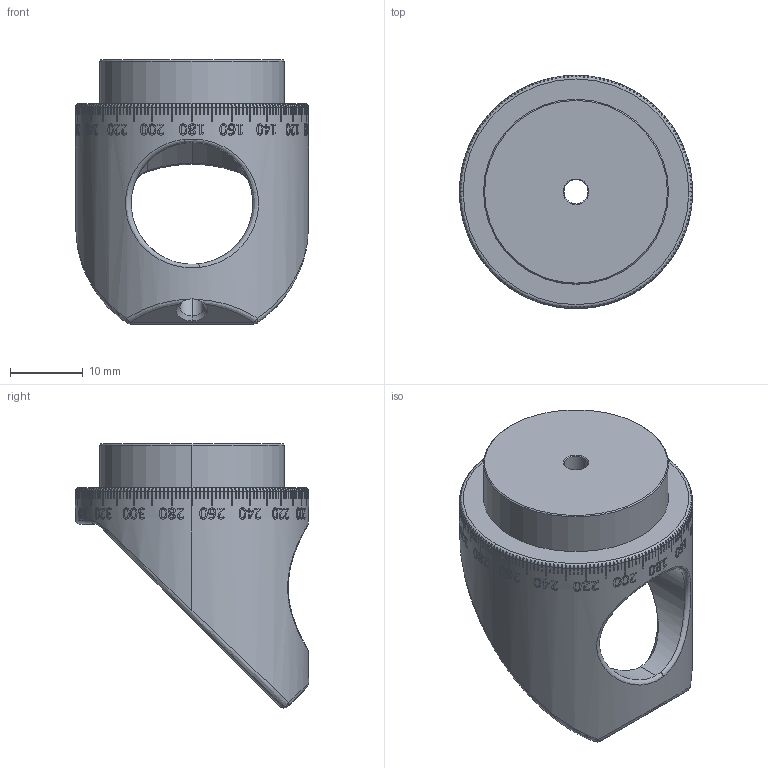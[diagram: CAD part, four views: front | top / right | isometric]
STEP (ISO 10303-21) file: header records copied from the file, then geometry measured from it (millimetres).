
FILE_DESCRIPTION (( 'STEP AP214' ), '1' );
FILE_NAME ('45僅蛌諉.STEP', '2026-08-10T07:43:05', ( '' ), ( '' ), 'SwSTEP 2.0', 'SolidWorks 2024', '' );
FILE_SCHEMA (( 'AUTOMOTIVE_DESIGN' ));
Length unit declared in the file: millimetre
Products named in the file (1): 45度转接
Bounding box: 32 x 32 x 36.27 mm (x, y, z)
Volume: 11663.1 mm3; surface area: 4792.9 mm2
Topology: 1 solids, 1 shells, 855 faces, 2891 edges, 2115 vertices
Faces by surface type: plane 726, cylinder 100, bspline 12, torus 8, cone 6, sphere 3
Entity records: 44069 total; most frequent: CARTESIAN_POINT 20207, ORIENTED_EDGE 5772, DIRECTION 3960, EDGE_CURVE 2886, VERTEX_POINT 2115, AXIS2_PLACEMENT_3D 1322, LINE 1316, VECTOR 1316
